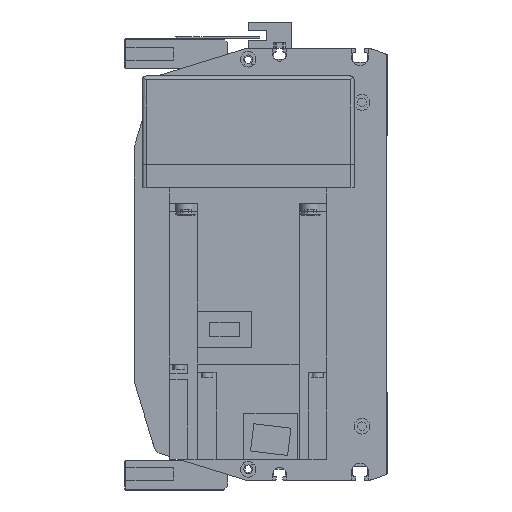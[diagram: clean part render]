
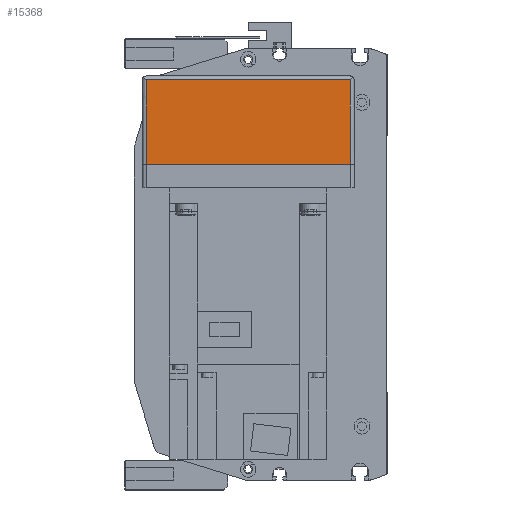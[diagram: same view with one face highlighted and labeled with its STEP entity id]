
A CAD part, left-side view. The second image highlights one B-rep face of the part: STEP entity #15368.
In plain terms, the highlighted planar face has unit normal (-1, 0, 0).
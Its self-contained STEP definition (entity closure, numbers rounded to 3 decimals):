
#2600=ORIENTED_EDGE('',*,*,#6248,.T.);
#2601=ORIENTED_EDGE('',*,*,#6176,.T.);
#2602=ORIENTED_EDGE('',*,*,#6249,.F.);
#2603=ORIENTED_EDGE('',*,*,#6188,.F.);
#6176=EDGE_CURVE('',#8146,#8149,#9740,.T.);
#6188=EDGE_CURVE('',#8156,#8158,#9745,.T.);
#6248=EDGE_CURVE('',#8156,#8146,#9787,.T.);
#6249=EDGE_CURVE('',#8158,#8149,#9788,.T.);
#8146=VERTEX_POINT('',#23923);
#8149=VERTEX_POINT('',#23929);
#8156=VERTEX_POINT('',#23952);
#8158=VERTEX_POINT('',#23955);
#9740=LINE('',#23930,#11097);
#9745=LINE('',#23954,#11102);
#9787=LINE('',#24078,#11144);
#9788=LINE('',#24079,#11145);
#11097=VECTOR('',#19087,1000.);
#11102=VECTOR('',#19114,1000.);
#11144=VECTOR('',#19234,1000.);
#11145=VECTOR('',#19235,1000.);
#12311=EDGE_LOOP('',(#2600,#2601,#2602,#2603));
#13596=FACE_BOUND('',#12311,.T.);
#14719=PLANE('',#16505);
#15368=ADVANCED_FACE('',(#13596),#14719,.T.);
#16505=AXIS2_PLACEMENT_3D('',#24077,#19232,#19233);
#19087=DIRECTION('',(0.,0.,1.));
#19114=DIRECTION('',(0.,0.,1.));
#19232=DIRECTION('',(-1.,0.,0.));
#19233=DIRECTION('',(0.,0.,1.));
#19234=DIRECTION('',(0.,-1.,0.));
#19235=DIRECTION('',(0.,-1.,0.));
#23923=CARTESIAN_POINT('',(-230.,-52.,-55.));
#23929=CARTESIAN_POINT('',(-230.,-52.,-12.));
#23930=CARTESIAN_POINT('',(-230.,-52.,-57.));
#23952=CARTESIAN_POINT('',(-230.,52.,-55.));
#23954=CARTESIAN_POINT('',(-230.,52.,-57.));
#23955=CARTESIAN_POINT('',(-230.,52.,-12.));
#24077=CARTESIAN_POINT('',(-230.,52.,-57.));
#24078=CARTESIAN_POINT('',(-230.,54.,-55.));
#24079=CARTESIAN_POINT('',(-230.,52.,-12.));
